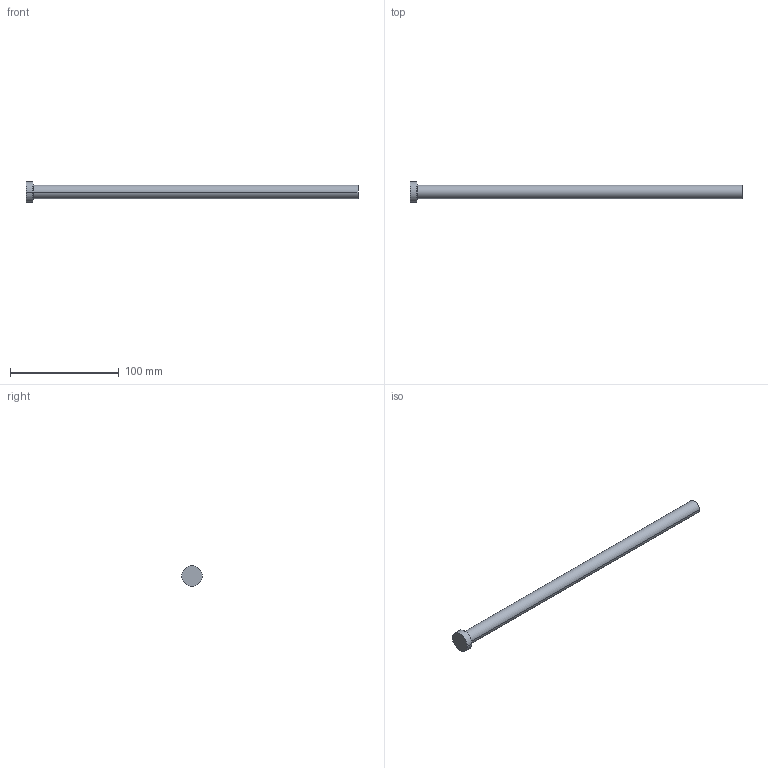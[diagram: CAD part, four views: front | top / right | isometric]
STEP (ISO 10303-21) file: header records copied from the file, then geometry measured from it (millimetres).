
FILE_DESCRIPTION (( 'STEP AP214' ), '1' );
FILE_NAME ('P33-12.STEP', '2020-03-12T11:00:07', ( '' ), ( '' ), 'SwSTEP 2.0', 'SolidWorks 2018', '' );
FILE_SCHEMA (( 'AUTOMOTIVE_DESIGN' ));
Length unit declared in the file: inch
Products named in the file (1): P33-12
Bounding box: 304.8 x 19.05 x 19.05 mm (x, y, z)
Volume: 39575.7 mm3; surface area: 12830.6 mm2
Topology: 1 solids, 1 shells, 13 faces, 24 edges, 14 vertices
Faces by surface type: cone 4, cylinder 4, plane 3, torus 2
Entity records: 366 total; most frequent: DIRECTION 68, CARTESIAN_POINT 52, ORIENTED_EDGE 48, AXIS2_PLACEMENT_3D 30, EDGE_CURVE 24, CIRCLE 16, VERTEX_POINT 14, EDGE_LOOP 14
